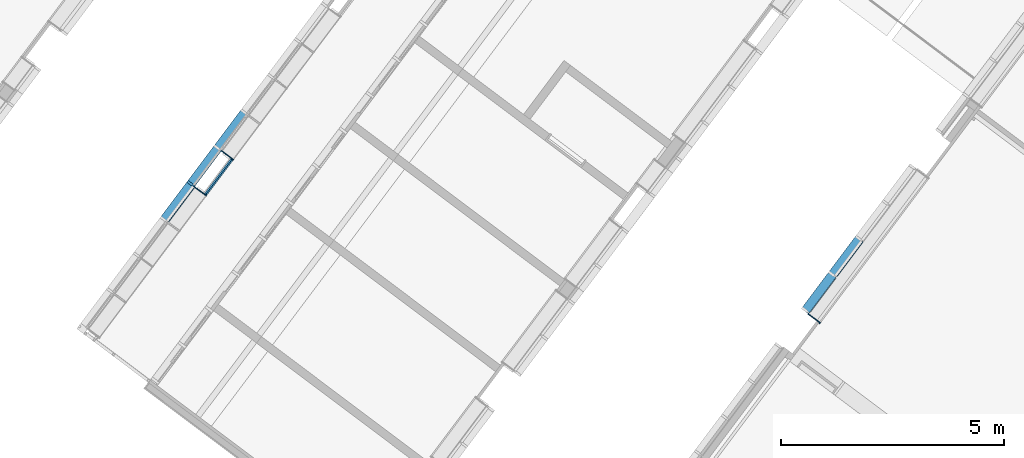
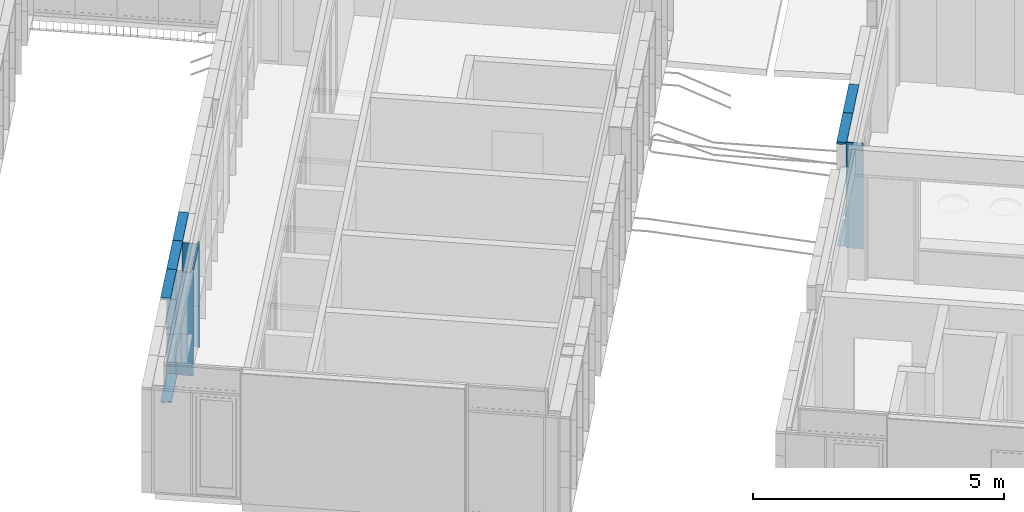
# One storey, part 20 of 243: 16 members, 4 elements without a shape of their own.
"""IFC2X3 building model written with IfcOpenShell, lengths in metres."""

from ifc_helpers import new_model, entity, si_unit, converted_unit, derived_unit, direction, frame, frame_2d, origin, place, context, subcontext, project, spatial, polyline, circle_curve, parameter, trimmed, segment, composite_curve, outline, extrude, source, transform, mapped, material, type_object, type_shapes, element, aggregate, save


model = new_model("IFC2X3")

# Units and contexts
model_context = context("Model", 3, precision=1e-05, world=origin(), true_north=direction((6.123031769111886e-17, 1.0)))
body_context = subcontext(model_context, "Body", "Model", "MODEL_VIEW")
ifc_project = project(units=[si_unit("LENGTHUNIT", "METRE"), si_unit("AREAUNIT", "SQUARE_METRE"), si_unit("VOLUMEUNIT", "CUBIC_METRE"), converted_unit("PLANEANGLEUNIT", "DEGREE", entity("IfcRatioMeasure", 0.017453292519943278), si_unit("PLANEANGLEUNIT", "RADIAN"), dimensions=[0, 0, 0, 0, 0, 0, 0]), si_unit("MASSUNIT", "GRAM", prefix="KILO"), derived_unit("MASSDENSITYUNIT", [(si_unit("MASSUNIT", "GRAM", prefix="KILO"), 1), (si_unit("LENGTHUNIT", "METRE"), -3)]), derived_unit("IONCONCENTRATIONUNIT", [(si_unit("MASSUNIT", "GRAM", prefix="KILO"), 1), (si_unit("LENGTHUNIT", "METRE"), -3)]), derived_unit("MOMENTOFINERTIAUNIT", [(si_unit("LENGTHUNIT", "METRE"), 4)]), si_unit("TIMEUNIT", "SECOND"), si_unit("FREQUENCYUNIT", "HERTZ"), si_unit("THERMODYNAMICTEMPERATUREUNIT", "DEGREE_CELSIUS"), derived_unit("THERMALTRANSMITTANCEUNIT", [(si_unit("MASSUNIT", "GRAM", prefix="KILO"), 1), (si_unit("THERMODYNAMICTEMPERATUREUNIT", "KELVIN"), -1), (si_unit("TIMEUNIT", "SECOND"), -3)]), derived_unit("THERMALCONDUCTANCEUNIT", [(si_unit("MASSUNIT", "GRAM", prefix="KILO"), 1), (si_unit("THERMODYNAMICTEMPERATUREUNIT", "KELVIN"), -1), (si_unit("TIMEUNIT", "SECOND"), -3), (si_unit("LENGTHUNIT", "METRE"), 1)]), derived_unit("VOLUMETRICFLOWRATEUNIT", [(si_unit("LENGTHUNIT", "METRE"), 3), (si_unit("TIMEUNIT", "SECOND"), -1)]), derived_unit("MASSFLOWRATEUNIT", [(si_unit("MASSUNIT", "GRAM", prefix="KILO"), 1), (si_unit("TIMEUNIT", "SECOND"), -1)]), derived_unit("ROTATIONALFREQUENCYUNIT", [(si_unit("TIMEUNIT", "SECOND"), -1)]), si_unit("ELECTRICCURRENTUNIT", "AMPERE"), si_unit("ELECTRICVOLTAGEUNIT", "VOLT"), si_unit("POWERUNIT", "WATT"), si_unit("FORCEUNIT", "NEWTON", prefix="KILO"), si_unit("ILLUMINANCEUNIT", "LUX"), si_unit("LUMINOUSFLUXUNIT", "LUMEN"), si_unit("LUMINOUSINTENSITYUNIT", "CANDELA"), derived_unit("USERDEFINED", [(si_unit("MASSUNIT", "GRAM", prefix="KILO"), -1), (si_unit("LENGTHUNIT", "METRE"), -2), (si_unit("TIMEUNIT", "SECOND"), 3), (si_unit("LUMINOUSFLUXUNIT", "LUMEN"), 1)]), derived_unit("USERDEFINED", [(si_unit("MASSUNIT", "GRAM", prefix="KILO"), 1), (si_unit("TIMEUNIT", "SECOND"), -3), (si_unit("LENGTHUNIT", "METRE"), 3), (si_unit("ELECTRICCURRENTUNIT", "AMPERE"), -2)]), derived_unit("SOUNDPOWERUNIT", [(si_unit("MASSUNIT", "GRAM", prefix="KILO"), 1), (si_unit("TIMEUNIT", "SECOND"), -3), (si_unit("LENGTHUNIT", "METRE"), 2)]), derived_unit("SOUNDPRESSUREUNIT", [(si_unit("MASSUNIT", "GRAM", prefix="KILO"), 1), (si_unit("LENGTHUNIT", "METRE"), -1), (si_unit("TIMEUNIT", "SECOND"), -2)]), derived_unit("LINEARVELOCITYUNIT", [(si_unit("LENGTHUNIT", "METRE"), 1), (si_unit("TIMEUNIT", "SECOND"), -1)]), si_unit("PRESSUREUNIT", "PASCAL"), derived_unit("USERDEFINED", [(si_unit("MASSUNIT", "GRAM", prefix="KILO"), 1), (si_unit("LENGTHUNIT", "METRE"), -2), (si_unit("TIMEUNIT", "SECOND"), -2)]), derived_unit("LINEARFORCEUNIT", [(si_unit("MASSUNIT", "GRAM", prefix="KILO"), 1), (si_unit("TIMEUNIT", "SECOND"), -2)]), derived_unit("PLANARFORCEUNIT", [(si_unit("MASSUNIT", "GRAM", prefix="KILO"), 1), (si_unit("LENGTHUNIT", "METRE"), -1), (si_unit("TIMEUNIT", "SECOND"), -2)]), derived_unit("SPECIFICHEATCAPACITYUNIT", [(si_unit("THERMODYNAMICTEMPERATUREUNIT", "KELVIN"), -1), (si_unit("LENGTHUNIT", "METRE"), 2), (si_unit("TIMEUNIT", "SECOND"), -2)]), derived_unit("HEATINGVALUEUNIT", [(si_unit("LENGTHUNIT", "METRE"), 2), (si_unit("TIMEUNIT", "SECOND"), -2)]), derived_unit("VAPORPERMEABILITYUNIT", [(si_unit("LENGTHUNIT", "METRE"), -1), (si_unit("TIMEUNIT", "SECOND"), 1)]), derived_unit("DYNAMICVISCOSITYUNIT", [(si_unit("MASSUNIT", "GRAM", prefix="KILO"), 1), (si_unit("TIMEUNIT", "SECOND"), -1), (si_unit("LENGTHUNIT", "METRE"), -1)]), derived_unit("THERMALEXPANSIONCOEFFICIENTUNIT", [(si_unit("THERMODYNAMICTEMPERATUREUNIT", "KELVIN"), -1)]), derived_unit("MODULUSOFELASTICITYUNIT", [(si_unit("MASSUNIT", "GRAM", prefix="KILO"), 1), (si_unit("LENGTHUNIT", "METRE"), -1), (si_unit("TIMEUNIT", "SECOND"), -2)]), derived_unit("ISOTHERMALMOISTURECAPACITYUNIT", [(si_unit("LENGTHUNIT", "METRE"), 3), (si_unit("MASSUNIT", "GRAM", prefix="KILO"), -1)]), derived_unit("MOISTUREDIFFUSIVITYUNIT", [(si_unit("TIMEUNIT", "SECOND"), -1), (si_unit("LENGTHUNIT", "METRE"), 2)])], contexts=[model_context])

# Site, building, storey
site_placement = place(None, frame((0.0, 0.0, 235.0), z_axis=(0.0, 0.0, 1.0), x_axis=(-0.7996477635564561, 0.6004693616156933, 0.0)))
site = spatial("IfcSite", under=ifc_project, at=site_placement, Name="Default", CompositionType="ELEMENT")
building_placement = place(site_placement, origin())
building = spatial("IfcBuilding", under=site, at=building_placement, CompositionType="ELEMENT")
storey_placement = place(building_placement, origin())
storey = spatial("IfcBuildingStorey", under=building, at=storey_placement, Name="P0- Escola", CompositionType="ELEMENT", Elevation=0.0)

# Curtain wall, members
curtain_wall_type_1 = type_object("IfcCurtainWallType", Name="Muro cortina:MC- INT- k2", PredefinedType="NOTDEFINED")
curtain_wall_1_placement = place(storey_placement, origin())
curtain_wall_1 = element("IfcCurtainWall", 1, at=curtain_wall_1_placement, inside=storey, type_object=curtain_wall_type_1, Name="Muro cortina:MC- INT- k2", ObjectType="Muro cortina:MC- INT- k2")
ifc_material_1 = material(Name="_Fusta massisa- T1")
member_type_1 = type_object("IfcMemberType", Name="Montante rectangular:MC- Fusta- 35x3 cm- Pati aules- Remat dreta", PredefinedType="MULLION", material=ifc_material_1)
shared_shape_1 = source(origin(), body_context, "Body", "SweptSolid", [
    extrude(outline(polyline([(-0.12500000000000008, -0.01666666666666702), (0.22, -0.01666666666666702), (0.22000000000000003, 0.003333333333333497), (-0.09499999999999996, 0.003333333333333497), (-0.09499999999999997, 0.013333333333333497), (-0.12500000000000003, 0.013333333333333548), (-0.12500000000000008, -0.01666666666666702)])), frame((0.00166666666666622, -0.03000000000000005, -1.0), z_axis=(0.0, 0.0, 1.0), x_axis=(0.0, -1.0, 0.0)), (0.0, 0.0, 1.0), 1.0),
])
type_shapes(member_type_1, [shared_shape_1])
member_1_placement = place(curtain_wall_1_placement, frame((36.345147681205, -24.4151917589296, 0.0), z_axis=(0.0, 0.0, -1.0), x_axis=(0.0, -1.0, 0.0)))
member_1 = element("IfcMember", 2, at=member_1_placement, type_object=member_type_1, material=ifc_material_1, Name="Montante rectangular:MC- Fusta- 35x3 cm- Pati aules- Remat dreta", ObjectType="Montante rectangular:MC- Fusta- 35x3 cm- Pati aules- Remat dreta", context=body_context, shape_type="MappedRepresentation", body=[
    mapped(shared_shape_1, transform((0.0, 0.0, 0.0), scale=1.0)),
])
member_type_2 = type_object("IfcMemberType", Name="Montante rectangular:MC- Fusta- 35x3 cm- Pati aules- Remat superior pilar", PredefinedType="MULLION", material=ifc_material_1)
shared_shape_2 = source(origin(), body_context, "Body", "SweptSolid", [
    extrude(outline(polyline([(-0.03166666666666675, -0.02666666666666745), (0.03333333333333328, -0.02666666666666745), (0.03333333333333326, -0.00666666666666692), (-0.0016666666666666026, -0.006666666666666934), (-0.0016666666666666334, 0.03333333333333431), (-0.03166666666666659, 0.03333333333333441), (-0.03166666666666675, -0.02666666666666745)])), frame((-0.03333333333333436, 0.06333333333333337, -1.0), z_axis=(0.0, 0.0, 1.0), x_axis=(0.0, -1.0, 0.0)), (0.0, 0.0, 1.0), 0.9999999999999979),
])
type_shapes(member_type_2, [shared_shape_2])
member_2_placement = place(curtain_wall_1_placement, frame((36.345147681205, -25.415191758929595, 2.565), z_axis=(0.0, -1.0, 0.0), x_axis=(0.0, 0.0, 1.0)))
member_2 = element("IfcMember", 3, at=member_2_placement, type_object=member_type_2, material=ifc_material_1, Name="Montante rectangular:MC- Fusta- 35x3 cm- Pati aules- Remat superior pilar", ObjectType="Montante rectangular:MC- Fusta- 35x3 cm- Pati aules- Remat superior pilar", context=body_context, shape_type="MappedRepresentation", body=[
    mapped(shared_shape_2, transform((0.0, 0.0, 0.0), scale=1.0)),
])
member_type_3 = type_object("IfcMemberType", Name="Montante rectangular:MC- Fusta- 35x3 cm- Pati aules- Remat esquerra", PredefinedType="MULLION", material=ifc_material_1)
shared_shape_3 = source(origin(), body_context, "Body", "SweptSolid", [
    extrude(outline(polyline([(-0.12500000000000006, -0.013333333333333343), (-0.09500000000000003, -0.013333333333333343), (-0.09499999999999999, -0.0033333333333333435), (0.22000000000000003, -0.003333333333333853), (0.22000000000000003, 0.016666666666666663), (-0.12500000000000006, 0.01666666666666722), (-0.12500000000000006, -0.013333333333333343)])), frame((-0.00166666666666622, -0.03000000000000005, -1.0), z_axis=(0.0, 0.0, 1.0), x_axis=(0.0, -1.0, 0.0)), (0.0, 0.0, 1.0), 1.0),
])
type_shapes(member_type_3, [shared_shape_3])
member_3_placement = place(curtain_wall_1_placement, frame((36.345147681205, -25.415191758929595, 0.0), z_axis=(0.0, 0.0, -1.0), x_axis=(0.0, -1.0, 0.0)))
member_3 = element("IfcMember", 4, at=member_3_placement, type_object=member_type_3, material=ifc_material_1, Name="Montante rectangular:MC- Fusta- 35x3 cm- Pati aules- Remat esquerra", ObjectType="Montante rectangular:MC- Fusta- 35x3 cm- Pati aules- Remat esquerra", context=body_context, shape_type="MappedRepresentation", body=[
    mapped(shared_shape_3, transform((0.0, 0.0, 0.0), scale=1.0)),
])
member_type_4 = type_object("IfcMemberType", Name="Montante rectangular:MC- Fusta- 35x3 cm- Pati aules- Remat dreta", PredefinedType="MULLION", material=ifc_material_1)
shared_shape_4 = source(origin(), body_context, "Body", "SweptSolid", [
    extrude(outline(polyline([(-0.12500000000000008, -0.01666666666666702), (0.22, -0.01666666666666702), (0.22000000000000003, 0.003333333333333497), (-0.09499999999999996, 0.003333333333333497), (-0.09499999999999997, 0.013333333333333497), (-0.12500000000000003, 0.013333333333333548), (-0.12500000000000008, -0.01666666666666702)])), frame((0.00166666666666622, -0.03000000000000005, -1.504999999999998), z_axis=(0.0, 0.0, 1.0), x_axis=(0.0, -1.0, 0.0)), (0.0, 0.0, 1.0), 1.504999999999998),
])
type_shapes(member_type_4, [shared_shape_4])
member_4_placement = place(curtain_wall_1_placement, frame((36.345147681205, -24.4151917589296, 1.0), z_axis=(0.0, 0.0, -1.0), x_axis=(0.0, -1.0, 0.0)))
member_4 = element("IfcMember", 5, at=member_4_placement, type_object=member_type_4, material=ifc_material_1, Name="Montante rectangular:MC- Fusta- 35x3 cm- Pati aules- Remat dreta", ObjectType="Montante rectangular:MC- Fusta- 35x3 cm- Pati aules- Remat dreta", context=body_context, shape_type="MappedRepresentation", body=[
    mapped(shared_shape_4, transform((0.0, 0.0, 0.0), scale=1.0)),
])
member_type_5 = type_object("IfcMemberType", Name="Montante rectangular:MC- Fusta- 35x3 cm- Pati aules- Remat esquerra", PredefinedType="MULLION", material=ifc_material_1)
shared_shape_5 = source(origin(), body_context, "Body", "SweptSolid", [
    extrude(outline(polyline([(-0.12500000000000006, -0.013333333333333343), (-0.09500000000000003, -0.013333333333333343), (-0.09499999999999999, -0.0033333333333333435), (0.22000000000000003, -0.003333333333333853), (0.22000000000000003, 0.016666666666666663), (-0.12500000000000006, 0.01666666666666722), (-0.12500000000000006, -0.013333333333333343)])), frame((-0.00166666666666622, -0.03000000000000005, -1.504999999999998), z_axis=(0.0, 0.0, 1.0), x_axis=(0.0, -1.0, 0.0)), (0.0, 0.0, 1.0), 1.504999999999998),
])
type_shapes(member_type_5, [shared_shape_5])
member_5_placement = place(curtain_wall_1_placement, frame((36.345147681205, -25.415191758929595, 1.0), z_axis=(0.0, 0.0, -1.0), x_axis=(0.0, -1.0, 0.0)))
member_5 = element("IfcMember", 6, at=member_5_placement, type_object=member_type_5, material=ifc_material_1, Name="Montante rectangular:MC- Fusta- 35x3 cm- Pati aules- Remat esquerra", ObjectType="Montante rectangular:MC- Fusta- 35x3 cm- Pati aules- Remat esquerra", context=body_context, shape_type="MappedRepresentation", body=[
    mapped(shared_shape_5, transform((0.0, 0.0, 0.0), scale=1.0)),
])
aggregate(curtain_wall_1, [member_1, member_2, member_3, member_4, member_5])

# Curtain wall, member
curtain_wall_type_2 = type_object("IfcCurtainWallType", Name="Muro cortina:MC- INT- k10- Pati passadís", PredefinedType="NOTDEFINED")
curtain_wall_2_placement = place(storey_placement, origin())
curtain_wall_2 = element("IfcCurtainWall", 7, at=curtain_wall_2_placement, inside=storey, type_object=curtain_wall_type_2, Name="Muro cortina:MC- INT- k10- Pati passadís", ObjectType="Muro cortina:MC- INT- k10- Pati passadís")
member_type_6 = type_object("IfcMemberType", Name="Montante rectangular:MC- Fusta- 35x3 cm- Pati aules- Remat esquerra", PredefinedType="MULLION", material=ifc_material_1)
shared_shape_6 = source(origin(), body_context, "Body", "SweptSolid", [
    extrude(outline(polyline([(-0.12500000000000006, -0.01666666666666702), (0.22000000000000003, -0.01666666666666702), (0.22000000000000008, 0.003333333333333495), (-0.09499999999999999, 0.003333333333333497), (-0.09500000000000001, 0.013333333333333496), (-0.12499999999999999, 0.013333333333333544), (-0.12500000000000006, -0.01666666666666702)])), frame((-0.013333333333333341, -0.030000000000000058, -2.5649999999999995), z_axis=(0.0, 0.0, 1.0), x_axis=(0.0, -1.0, 0.0)), (0.0, 0.0, 1.0), 2.565),
])
type_shapes(member_type_6, [shared_shape_6])
member_6_placement = place(curtain_wall_2_placement, frame((23.645147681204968, -30.365191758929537, 2.565), z_axis=(0.0, 0.0, 1.0), x_axis=(0.0, 1.0, 0.0)))
member_6 = element("IfcMember", 8, at=member_6_placement, type_object=member_type_6, material=ifc_material_1, Name="Montante rectangular:MC- Fusta- 35x3 cm- Pati aules- Remat esquerra", ObjectType="Montante rectangular:MC- Fusta- 35x3 cm- Pati aules- Remat esquerra", context=body_context, shape_type="MappedRepresentation", body=[
    mapped(shared_shape_6, transform((0.0, 0.0, 0.0), scale=1.0)),
])
aggregate(curtain_wall_2, [member_6])

# Curtain wall, members
curtain_wall_type_3 = type_object("IfcCurtainWallType", Name="Muro cortina:MC- EXT- MC2", PredefinedType="NOTDEFINED")
curtain_wall_3_placement = place(storey_placement, origin())
curtain_wall_3 = element("IfcCurtainWall", 9, at=curtain_wall_3_placement, inside=storey, type_object=curtain_wall_type_3, Name="Muro cortina:MC- EXT- MC2", ObjectType="Muro cortina:MC- EXT- MC2")
ifc_material_2 = material(Name="_Alumini- T1- Perfil")
member_type_7 = type_object("IfcMemberType", Name="Montante rectangular:MC- Alu- 140x52,5 cm- Fa patis- inferior", PredefinedType="MULLION", material=ifc_material_2)
shared_shape_7 = source(origin(), body_context, "Body", "SweptSolid", [
    extrude(outline(composite_curve([segment(polyline([(-0.144167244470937, -0.025867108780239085), (-0.12786724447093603, -0.02586710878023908)]), True, "CONTINUOUS"), segment(polyline([(-0.12786724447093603, -0.02586710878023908), (-0.12786724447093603, -0.023167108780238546)]), True, "CONTINUOUS"), segment(polyline([(-0.12786724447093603, -0.023167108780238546), (-0.0678672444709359, -0.023167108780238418)]), True, "CONTINUOUS"), segment(polyline([(-0.0678672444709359, -0.023167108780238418), (0.07031215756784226, -0.010722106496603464)]), True, "CONTINUOUS"), segment(trimmed(circle_curve(frame_2d((0.07013275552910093, -0.008730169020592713), x_axis=(0.0897010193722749, -0.9959687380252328)), 0.0019999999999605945), [parameter(0.0)], [parameter(84.8535928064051)], True, "PARAMETER"), True, "CONTINUOUS"), segment(polyline([(0.07213275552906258, -0.008730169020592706), (0.07213275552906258, 0.006266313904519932)]), True, "CONTINUOUS"), segment(trimmed(circle_curve(frame_2d((0.07013275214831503, 0.006266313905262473), x_axis=(1.0, 0.0)), 0.0020000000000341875), [parameter(0.0)], [parameter(90.00000002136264)], True, "PARAMETER"), True, "CONTINUOUS"), segment(polyline([(0.070132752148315, 0.008266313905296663), (0.06213275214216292, 0.008266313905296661)]), True, "CONTINUOUS"), segment(polyline([(0.06213275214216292, 0.008266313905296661), (0.06213275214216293, 0.006266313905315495)]), True, "CONTINUOUS"), segment(polyline([(0.06213275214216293, 0.006266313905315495), (0.06963275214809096, 0.006266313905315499)]), True, "CONTINUOUS"), segment(trimmed(circle_curve(frame_2d((0.06963275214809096, 0.005766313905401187), x_axis=(0.0, 1.0)), 0.0004999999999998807), [parameter(269.9999999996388)], [parameter(0.0)], True, "PARAMETER"), False, "CONTINUOUS"), segment(polyline([(0.07013275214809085, 0.005766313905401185), (0.07013275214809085, -0.008730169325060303)]), True, "CONTINUOUS"), segment(polyline([(0.07013275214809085, -0.008730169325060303), (0.03213275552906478, -0.012152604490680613)]), True, "CONTINUOUS"), segment(polyline([(0.03213275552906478, -0.0121526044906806), (0.03213275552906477, 0.029132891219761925)]), True, "CONTINUOUS"), segment(polyline([(0.03213275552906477, 0.029132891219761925), (0.0021327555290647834, 0.029132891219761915)]), True, "CONTINUOUS"), segment(polyline([(0.0021327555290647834, 0.029132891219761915), (0.0021327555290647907, 0.02713289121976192)]), True, "CONTINUOUS"), segment(polyline([(0.0021327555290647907, 0.02713289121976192), (0.03013275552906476, 0.02713289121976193)]), True, "CONTINUOUS"), segment(polyline([(0.03013275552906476, 0.027132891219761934), (0.03013275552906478, -0.012332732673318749)]), True, "CONTINUOUS"), segment(polyline([(0.03013275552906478, -0.012332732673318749), (-0.06786724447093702, -0.021159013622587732)]), True, "CONTINUOUS"), segment(polyline([(-0.06786724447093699, -0.02115901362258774), (-0.067867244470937, 0.009132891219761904)]), True, "CONTINUOUS"), segment(polyline([(-0.06786724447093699, 0.009132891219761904), (-0.14416724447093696, 0.009132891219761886)]), True, "CONTINUOUS"), segment(polyline([(-0.14416724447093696, 0.009132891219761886), (-0.144167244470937, -0.025867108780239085)]), True, "CONTINUOUS")], self_intersect=False)), frame((-0.029132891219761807, -0.06786724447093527, -0.9737499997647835), z_axis=(0.0, 0.0, 1.0), x_axis=(0.0, -1.0, 0.0)), (0.0, 0.0, 1.0), 0.9737499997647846),
])
type_shapes(member_type_7, [shared_shape_7])
member_7_placement = place(curtain_wall_3_placement, frame((23.94514768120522, -31.441441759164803, -0.02), z_axis=(0.0, 1.0, 0.0), x_axis=(0.0, 0.0, -1.0)))
member_7 = element("IfcMember", 10, at=member_7_placement, type_object=member_type_7, material=ifc_material_2, Name="Montante rectangular:MC- Alu- 140x52,5 cm- Fa patis- inferior", ObjectType="Montante rectangular:MC- Alu- 140x52,5 cm- Fa patis- inferior", context=body_context, shape_type="MappedRepresentation", body=[
    mapped(shared_shape_7, transform((0.0, 0.0, 0.0), scale=1.0)),
])
member_type_8 = type_object("IfcMemberType", Name="Montante rectangular:MC- Alu- 140x52,5 cm- Fa patis- Superior", PredefinedType="MULLION", material=ifc_material_2)
shared_shape_8 = source(origin(), body_context, "Body", "SweptSolid", [
    extrude(outline(polyline([(-0.026333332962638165, -0.021249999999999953), (0.11366666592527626, -0.021249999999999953), (0.11366666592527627, 0.031250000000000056), (-0.08733333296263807, 0.03125000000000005), (-0.0873333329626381, -0.010000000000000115), (-0.026333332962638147, -0.010000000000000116), (-0.026333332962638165, -0.021249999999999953)])), frame((-0.031250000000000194, -0.02733333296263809, -1.0), z_axis=(0.0, 0.0, 1.0), x_axis=(0.0, -1.0, 0.0)), (0.0, 0.0, 1.0), 1.0000000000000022),
])
type_shapes(member_type_8, [shared_shape_8])
member_8_placement = place(curtain_wall_3_placement, frame((23.945147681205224, -32.41519175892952, 2.545), z_axis=(0.0, -1.0, 0.0), x_axis=(0.0, 0.0, 1.0)))
member_8 = element("IfcMember", 11, at=member_8_placement, type_object=member_type_8, material=ifc_material_2, Name="Montante rectangular:MC- Alu- 140x52,5 cm- Fa patis- Superior", ObjectType="Montante rectangular:MC- Alu- 140x52,5 cm- Fa patis- Superior", context=body_context, shape_type="MappedRepresentation", body=[
    mapped(shared_shape_8, transform((0.0, 0.0, 0.0), scale=1.0)),
])

curtain_wall_type_4 = type_object("IfcCurtainWallType", Name="Muro cortina:MC- EXT- MC5", PredefinedType="NOTDEFINED")
curtain_wall_4_placement = place(storey_placement, origin())
curtain_wall_4 = element("IfcCurtainWall", 12, at=curtain_wall_4_placement, inside=storey, type_object=curtain_wall_type_4, Name="Muro cortina:MC- EXT- MC5", ObjectType="Muro cortina:MC- EXT- MC5")
member_9_placement = place(curtain_wall_4_placement, frame((36.64514768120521, -24.415191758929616, 2.545), z_axis=(0.0, -1.0, 0.0), x_axis=(0.0, 0.0, 1.0)))
member_9 = element("IfcMember", 13, at=member_9_placement, type_object=member_type_8, material=ifc_material_2, Name="Montante rectangular:MC- Alu- 140x52,5 cm- Fa patis- Superior", ObjectType="Montante rectangular:MC- Alu- 140x52,5 cm- Fa patis- Superior", context=body_context, shape_type="MappedRepresentation", body=[
    mapped(shared_shape_8, transform((0.0, 0.0, 0.0), scale=1.0)),
])
member_10_placement = place(curtain_wall_4_placement, frame((36.64514768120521, -26.41519175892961, 2.545), z_axis=(0.0, -1.0, 0.0), x_axis=(0.0, 0.0, 1.0)))
member_10 = element("IfcMember", 14, at=member_10_placement, type_object=member_type_8, material=ifc_material_2, Name="Montante rectangular:MC- Alu- 140x52,5 cm- Fa patis- Superior", ObjectType="Montante rectangular:MC- Alu- 140x52,5 cm- Fa patis- Superior", context=body_context, shape_type="MappedRepresentation", body=[
    mapped(shared_shape_8, transform((0.0, 0.0, 0.0), scale=1.0)),
])
member_11_placement = place(curtain_wall_4_placement, frame((36.64514768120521, -25.415191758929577, 2.545), z_axis=(0.0, -1.0, 0.0), x_axis=(0.0, 0.0, 1.0)))
member_11 = element("IfcMember", 15, at=member_11_placement, type_object=member_type_8, material=ifc_material_2, Name="Montante rectangular:MC- Alu- 140x52,5 cm- Fa patis- Superior", ObjectType="Montante rectangular:MC- Alu- 140x52,5 cm- Fa patis- Superior", context=body_context, shape_type="MappedRepresentation", body=[
    mapped(shared_shape_8, transform((0.0, 0.0, 0.0), scale=1.0)),
])
member_type_9 = type_object("IfcMemberType", Name="Montante rectangular:MC- Alu- 140x52,5 cm- Fa patis- inferior", PredefinedType="MULLION", material=ifc_material_2)
shared_shape_9 = source(origin(), body_context, "Body", "SweptSolid", [
    extrude(outline(composite_curve([segment(polyline([(-0.144167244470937, -0.025867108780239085), (-0.12786724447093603, -0.02586710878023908)]), True, "CONTINUOUS"), segment(polyline([(-0.12786724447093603, -0.02586710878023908), (-0.12786724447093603, -0.023167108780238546)]), True, "CONTINUOUS"), segment(polyline([(-0.12786724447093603, -0.023167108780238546), (-0.0678672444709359, -0.023167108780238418)]), True, "CONTINUOUS"), segment(polyline([(-0.0678672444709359, -0.023167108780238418), (0.07031215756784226, -0.010722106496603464)]), True, "CONTINUOUS"), segment(trimmed(circle_curve(frame_2d((0.07013275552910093, -0.008730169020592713), x_axis=(0.0897010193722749, -0.9959687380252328)), 0.0019999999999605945), [parameter(0.0)], [parameter(84.8535928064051)], True, "PARAMETER"), True, "CONTINUOUS"), segment(polyline([(0.07213275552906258, -0.008730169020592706), (0.07213275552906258, 0.006266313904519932)]), True, "CONTINUOUS"), segment(trimmed(circle_curve(frame_2d((0.07013275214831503, 0.006266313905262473), x_axis=(1.0, 0.0)), 0.0020000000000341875), [parameter(0.0)], [parameter(90.00000002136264)], True, "PARAMETER"), True, "CONTINUOUS"), segment(polyline([(0.070132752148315, 0.008266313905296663), (0.06213275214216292, 0.008266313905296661)]), True, "CONTINUOUS"), segment(polyline([(0.06213275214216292, 0.008266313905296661), (0.06213275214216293, 0.006266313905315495)]), True, "CONTINUOUS"), segment(polyline([(0.06213275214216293, 0.006266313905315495), (0.06963275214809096, 0.006266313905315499)]), True, "CONTINUOUS"), segment(trimmed(circle_curve(frame_2d((0.06963275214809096, 0.005766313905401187), x_axis=(0.0, 1.0)), 0.0004999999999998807), [parameter(269.9999999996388)], [parameter(0.0)], True, "PARAMETER"), False, "CONTINUOUS"), segment(polyline([(0.07013275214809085, 0.005766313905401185), (0.07013275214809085, -0.008730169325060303)]), True, "CONTINUOUS"), segment(polyline([(0.07013275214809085, -0.008730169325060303), (0.03213275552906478, -0.012152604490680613)]), True, "CONTINUOUS"), segment(polyline([(0.03213275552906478, -0.0121526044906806), (0.03213275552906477, 0.029132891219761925)]), True, "CONTINUOUS"), segment(polyline([(0.03213275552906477, 0.029132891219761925), (0.0021327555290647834, 0.029132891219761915)]), True, "CONTINUOUS"), segment(polyline([(0.0021327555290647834, 0.029132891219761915), (0.0021327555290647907, 0.02713289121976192)]), True, "CONTINUOUS"), segment(polyline([(0.0021327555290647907, 0.02713289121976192), (0.03013275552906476, 0.02713289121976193)]), True, "CONTINUOUS"), segment(polyline([(0.03013275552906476, 0.027132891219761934), (0.03013275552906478, -0.012332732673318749)]), True, "CONTINUOUS"), segment(polyline([(0.03013275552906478, -0.012332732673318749), (-0.06786724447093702, -0.021159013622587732)]), True, "CONTINUOUS"), segment(polyline([(-0.06786724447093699, -0.02115901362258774), (-0.067867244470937, 0.009132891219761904)]), True, "CONTINUOUS"), segment(polyline([(-0.06786724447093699, 0.009132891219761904), (-0.14416724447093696, 0.009132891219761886)]), True, "CONTINUOUS"), segment(polyline([(-0.14416724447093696, 0.009132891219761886), (-0.144167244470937, -0.025867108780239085)]), True, "CONTINUOUS")], self_intersect=False)), frame((-0.029132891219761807, -0.06786724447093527, -0.9737499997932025), z_axis=(0.0, 0.0, 1.0), x_axis=(0.0, -1.0, 0.0)), (0.0, 0.0, 1.0), 0.9737499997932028),
])
type_shapes(member_type_9, [shared_shape_9])
member_12_placement = place(curtain_wall_4_placement, frame((36.6451476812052, -23.415191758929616, -0.02), z_axis=(0.0, 1.0, 0.0), x_axis=(0.0, 0.0, -1.0)))
member_12 = element("IfcMember", 16, at=member_12_placement, type_object=member_type_9, material=ifc_material_2, Name="Montante rectangular:MC- Alu- 140x52,5 cm- Fa patis- inferior", ObjectType="Montante rectangular:MC- Alu- 140x52,5 cm- Fa patis- inferior", context=body_context, shape_type="MappedRepresentation", body=[
    mapped(shared_shape_9, transform((0.0, 0.0, 0.0), scale=1.0)),
])

# Member
member_type_10 = type_object("IfcMemberType", Name="Montante rectangular:MC- Alu- 140x52,5 cm- Fa patis- Superior", PredefinedType="MULLION", material=ifc_material_2)
shared_shape_10 = source(origin(), body_context, "Body", "SweptSolid", [
    extrude(outline(polyline([(-0.026333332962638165, -0.021249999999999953), (0.11366666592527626, -0.021249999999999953), (0.11366666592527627, 0.031250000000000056), (-0.08733333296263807, 0.03125000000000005), (-0.0873333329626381, -0.010000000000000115), (-0.026333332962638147, -0.010000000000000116), (-0.026333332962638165, -0.021249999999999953)])), frame((-0.031250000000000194, -0.02733333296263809, -1.0262500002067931), z_axis=(0.0, 0.0, 1.0), x_axis=(0.0, -1.0, 0.0)), (0.0, 0.0, 1.0), 1.0262500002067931),
])
type_shapes(member_type_10, [shared_shape_10])
member_13_placement = place(curtain_wall_3_placement, frame((23.94514768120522, -31.415191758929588, 2.545), z_axis=(0.0, -1.0, 0.0), x_axis=(0.0, 0.0, 1.0)))
member_13 = element("IfcMember", 17, at=member_13_placement, type_object=member_type_10, material=ifc_material_2, Name="Montante rectangular:MC- Alu- 140x52,5 cm- Fa patis- Superior", ObjectType="Montante rectangular:MC- Alu- 140x52,5 cm- Fa patis- Superior", context=body_context, shape_type="MappedRepresentation", body=[
    mapped(shared_shape_10, transform((0.0, 0.0, 0.0), scale=1.0)),
])

member_type_11 = type_object("IfcMemberType", Name="Montante rectangular:MC- Alu- 140x52,5 cm- Fa patis- inferior porta reixa", PredefinedType="MULLION", material=ifc_material_2)
shared_shape_11 = source(origin(), body_context, "Body", "SweptSolid", [
    extrude(outline(polyline([(-0.09753333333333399, -0.026000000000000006), (-0.02123333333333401, -0.026000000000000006), (-0.02123333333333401, 0.012000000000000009), (0.11876666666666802, 0.012000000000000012), (0.118766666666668, 0.013999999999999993), (-0.09753333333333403, 0.013999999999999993), (-0.09753333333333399, -0.026000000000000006)])), frame((-0.01400000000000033, -0.02123333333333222, -0.9474999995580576), z_axis=(0.0, 0.0, 1.0), x_axis=(0.0, -1.0, 0.0)), (0.0, 0.0, 1.0), 0.9474999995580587),
])
type_shapes(member_type_11, [shared_shape_11])
member_14_placement = place(curtain_wall_3_placement, frame((23.94514768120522, -30.441441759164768, -0.02), z_axis=(0.0, 1.0, 0.0), x_axis=(0.0, 0.0, -1.0)))
member_14 = element("IfcMember", 18, at=member_14_placement, type_object=member_type_11, material=ifc_material_2, Name="Montante rectangular:MC- Alu- 140x52,5 cm- Fa patis- inferior porta reixa", ObjectType="Montante rectangular:MC- Alu- 140x52,5 cm- Fa patis- inferior porta reixa", context=body_context, shape_type="MappedRepresentation", body=[
    mapped(shared_shape_11, transform((0.0, 0.0, 0.0), scale=1.0)),
])

aggregate(curtain_wall_3, [member_13, member_7, member_8, member_14])

member_type_12 = type_object("IfcMemberType", Name="Montante rectangular:MC- Alu- 140x52,5 cm- Fa patis- Centre", PredefinedType="MULLION", material=ifc_material_2)
shared_shape_12 = source(origin(), body_context, "Body", "SweptSolid", [
    extrude(outline(polyline([(-0.021999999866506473, -0.026250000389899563), (0.11699999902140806, -0.026250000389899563), (0.11699999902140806, 0.026250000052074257), (-0.022000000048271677, 0.026250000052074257), (-0.022000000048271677, 0.015000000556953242), (-0.07299999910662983, 0.015000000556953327), (-0.07299999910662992, -0.01500000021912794), (-0.021999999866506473, -0.01500000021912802), (-0.021999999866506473, -0.026250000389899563)])), frame((0.0, -0.022999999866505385, -1.0), z_axis=(0.0, 0.0, 1.0), x_axis=(0.0, -1.0, 0.0)), (0.0, 0.0, 1.0), 1.0),
])
type_shapes(member_type_12, [shared_shape_12])
member_15_placement = place(curtain_wall_4_placement, frame((36.64514768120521, -24.415191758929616, -0.02), z_axis=(0.0, 0.0, -1.0), x_axis=(0.0, -1.0, 0.0)))
member_15 = element("IfcMember", 19, at=member_15_placement, type_object=member_type_12, material=ifc_material_2, Name="Montante rectangular:MC- Alu- 140x52,5 cm- Fa patis- Centre", ObjectType="Montante rectangular:MC- Alu- 140x52,5 cm- Fa patis- Centre", context=body_context, shape_type="MappedRepresentation", body=[
    mapped(shared_shape_12, transform((0.0, 0.0, 0.0), scale=1.0)),
])

member_type_13 = type_object("IfcMemberType", Name="Montante rectangular:MC- Alu- 140x52,5 cm- Fa patis- Centre", PredefinedType="MULLION", material=ifc_material_2)
shared_shape_13 = source(origin(), body_context, "Body", "SweptSolid", [
    extrude(outline(polyline([(-0.021999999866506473, -0.026250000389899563), (0.11699999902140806, -0.026250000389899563), (0.11699999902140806, 0.026250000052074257), (-0.022000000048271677, 0.026250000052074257), (-0.022000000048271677, 0.015000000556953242), (-0.07299999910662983, 0.015000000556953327), (-0.07299999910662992, -0.01500000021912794), (-0.021999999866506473, -0.01500000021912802), (-0.021999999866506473, -0.026250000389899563)])), frame((0.0, -0.022999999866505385, -1.5124999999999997), z_axis=(0.0, 0.0, 1.0), x_axis=(0.0, -1.0, 0.0)), (0.0, 0.0, 1.0), 1.5124999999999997),
])
type_shapes(member_type_13, [shared_shape_13])
member_16_placement = place(curtain_wall_4_placement, frame((36.64514768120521, -24.415191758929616, 0.98), z_axis=(0.0, 0.0, -1.0), x_axis=(0.0, -1.0, 0.0)))
member_16 = element("IfcMember", 20, at=member_16_placement, type_object=member_type_13, material=ifc_material_2, Name="Montante rectangular:MC- Alu- 140x52,5 cm- Fa patis- Centre", ObjectType="Montante rectangular:MC- Alu- 140x52,5 cm- Fa patis- Centre", context=body_context, shape_type="MappedRepresentation", body=[
    mapped(shared_shape_13, transform((0.0, 0.0, 0.0), scale=1.0)),
])

aggregate(curtain_wall_4, [member_12, member_9, member_15, member_10, member_11, member_16])

save(model, "model.ifc")
